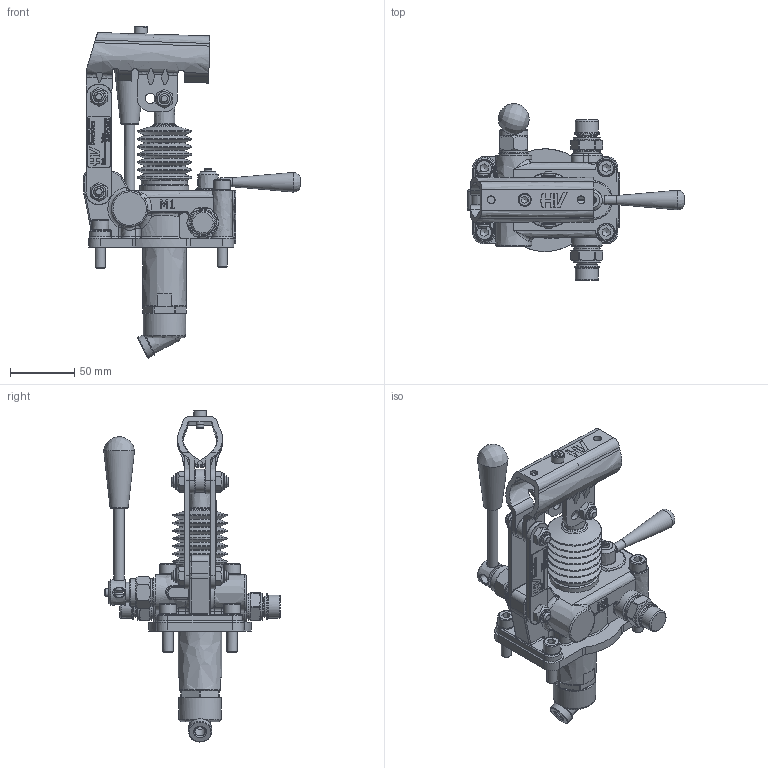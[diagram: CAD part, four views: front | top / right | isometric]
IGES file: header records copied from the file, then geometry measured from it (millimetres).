
Global section: file name: No Iges File Name specified; native system: Autodesk Inventor 2013; preprocessor: AutoDesk Inventor Iges Exporter R2013; author: christian.scardovi; date: 20240229.153030; units: millimetre
Bounding box: 169 x 137.5 x 258.54 mm (x, y, z)
Surface area: 142117.2 mm2
Topology: 2 solids, 3 shells, 1615 faces, 4079 edges, 2582 vertices
Faces by surface type: bspline 1615
